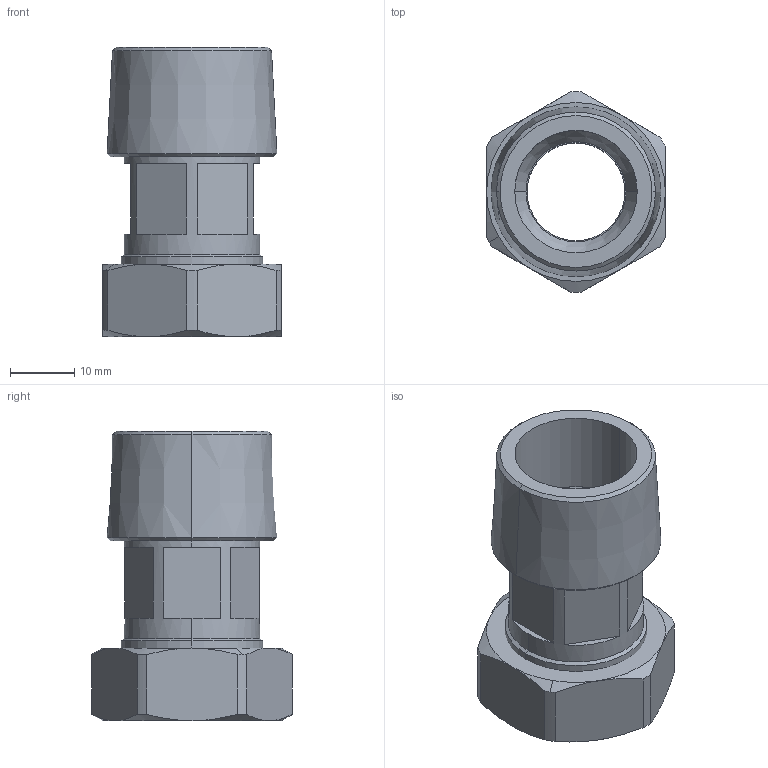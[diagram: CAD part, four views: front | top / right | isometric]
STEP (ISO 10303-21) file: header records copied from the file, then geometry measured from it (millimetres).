
FILE_DESCRIPTION (( 'STEP AP214' ), '1' );
FILE_NAME ('Z³o¿enie1.STEP', '2022-12-13T07:16:07', ( '' ), ( '' ), 'SwSTEP 2.0', 'SolidWorks 2022', '' );
FILE_SCHEMA (( 'AUTOMOTIVE_DESIGN' ));
Length unit declared in the file: millimetre
Products named in the file (3): 3_4inch; Złożenie1; 2
Assembly tree (2 placements, depth 2):
  Złożenie1
    2
    3_4inch
Bounding box: 27.75 x 31.12 x 44.9 mm (x, y, z)
Volume: 10118.9 mm3; surface area: 8649.9 mm2
Topology: 2 solids, 2 shells, 108 faces, 247 edges, 154 vertices
Faces by surface type: cylinder 36, plane 36, cone 33, bspline 3
Entity records: 4630 total; most frequent: CARTESIAN_POINT 2116, DIRECTION 524, ORIENTED_EDGE 494, EDGE_CURVE 247, AXIS2_PLACEMENT_3D 216, VERTEX_POINT 154, EDGE_LOOP 123, ADVANCED_FACE 108
